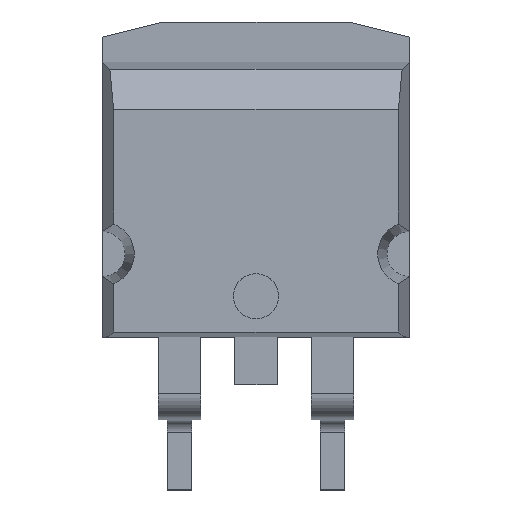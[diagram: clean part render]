
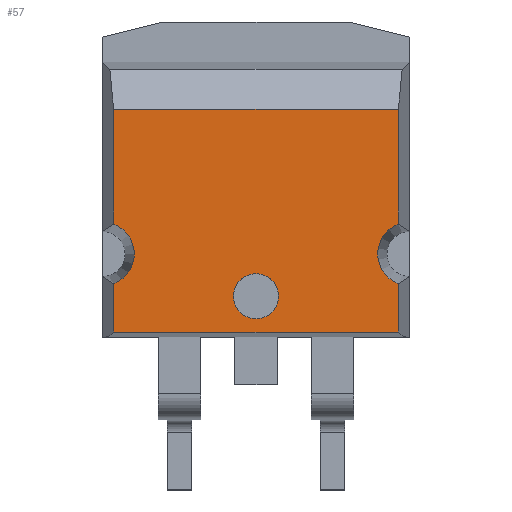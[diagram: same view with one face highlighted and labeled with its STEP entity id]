
A CAD part, top view. The second image highlights one B-rep face of the part: STEP entity #57.
In plain terms, the highlighted planar face has unit normal (0, 0, 1).
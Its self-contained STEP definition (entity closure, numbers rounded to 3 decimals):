
#57 = ADVANCED_FACE ( 'NONE', ( #1667, #1072 ), #1610, .T. ) ;
#59 = CARTESIAN_POINT ( 'NONE',  ( -4.732, 4.808, 4.8 ) ) ;
#135 = EDGE_LOOP ( 'NONE', ( #3722, #2105 ) ) ;
#146 = VECTOR ( 'NONE', #3382, 1000. ) ;
#148 = ORIENTED_EDGE ( 'NONE', *, *, #196, .T. ) ;
#149 = CARTESIAN_POINT ( 'NONE',  ( 0., -1.408, 4.8 ) ) ;
#196 = EDGE_CURVE ( 'NONE', #2182, #2054, #1159, .T. ) ;
#212 = AXIS2_PLACEMENT_3D ( 'NONE', #3605, #950, #2122 ) ;
#222 = VECTOR ( 'NONE', #2883, 1000. ) ;
#271 = CARTESIAN_POINT ( 'NONE',  ( 0., 4.808, 4.8 ) ) ;
#273 = EDGE_CURVE ( 'NONE', #660, #3247, #2466, .T. ) ;
#293 = CARTESIAN_POINT ( 'NONE',  ( 4.732, -0.485, 4.8 ) ) ;
#339 = CARTESIAN_POINT ( 'NONE',  ( -4.732, 4.09, 4.8 ) ) ;
#340 = CARTESIAN_POINT ( 'NONE',  ( 5.1, 0., 4.8 ) ) ;
#400 = CARTESIAN_POINT ( 'NONE',  ( -4.732, 1.802, 4.8 ) ) ;
#405 = CIRCLE ( 'NONE', #1536, 1.057 ) ;
#436 = DIRECTION ( 'NONE',  ( 0., 0., 1. ) ) ;
#521 = CARTESIAN_POINT ( 'NONE',  ( -4.732, -0.99, 4.8 ) ) ;
#660 = VERTEX_POINT ( 'NONE', #3761 ) ;
#765 = VECTOR ( 'NONE', #2147, 1000. ) ;
#782 = CIRCLE ( 'NONE', #1776, 0.75 ) ;
#807 = DIRECTION ( 'NONE',  ( 0., 0., -1. ) ) ;
#835 = AXIS2_PLACEMENT_3D ( 'NONE', #340, #1868, #2431 ) ;
#869 = DIRECTION ( 'NONE',  ( 0., 1., 0. ) ) ;
#950 = DIRECTION ( 'NONE',  ( 0., 0., -1. ) ) ;
#951 = CARTESIAN_POINT ( 'NONE',  ( -0.75, -1.408, 4.8 ) ) ;
#1017 = EDGE_CURVE ( 'NONE', #660, #3716, #3597, .T. ) ;
#1047 = EDGE_CURVE ( 'NONE', #1847, #2182, #3682, .T. ) ;
#1072 = FACE_OUTER_BOUND ( 'NONE', #1634, .T. ) ;
#1078 = VERTEX_POINT ( 'NONE', #59 ) ;
#1144 = ORIENTED_EDGE ( 'NONE', *, *, #1047, .T. ) ;
#1159 = LINE ( 'NONE', #2332, #1561 ) ;
#1163 = LINE ( 'NONE', #271, #222 ) ;
#1231 = CIRCLE ( 'NONE', #3281, 1.057 ) ;
#1251 = DIRECTION ( 'NONE',  ( 1., 0., 0. ) ) ;
#1314 = ORIENTED_EDGE ( 'NONE', *, *, #1905, .T. ) ;
#1393 = CARTESIAN_POINT ( 'NONE',  ( 4.732, -2.595, 4.8 ) ) ;
#1439 = EDGE_CURVE ( 'NONE', #3789, #3467, #782, .T. ) ;
#1449 = CARTESIAN_POINT ( 'NONE',  ( 4.732, 4.808, 4.8 ) ) ;
#1519 = CARTESIAN_POINT ( 'NONE',  ( -4.732, 0.99, 4.8 ) ) ;
#1536 = AXIS2_PLACEMENT_3D ( 'NONE', #3763, #1881, #2797 ) ;
#1561 = VECTOR ( 'NONE', #869, 1000. ) ;
#1599 = ORIENTED_EDGE ( 'NONE', *, *, #1017, .T. ) ;
#1608 = EDGE_CURVE ( 'NONE', #3467, #3789, #3385, .T. ) ;
#1610 = PLANE ( 'NONE',  #2867 ) ;
#1634 = EDGE_LOOP ( 'NONE', ( #1599, #2303, #1144, #148, #3778, #1314, #2231, #1740, #2108 ) ) ;
#1667 = FACE_BOUND ( 'NONE', #135, .T. ) ;
#1669 = CARTESIAN_POINT ( 'NONE',  ( 4.732, -0.99, 4.8 ) ) ;
#1702 = EDGE_CURVE ( 'NONE', #1847, #3716, #3520, .T. ) ;
#1740 = ORIENTED_EDGE ( 'NONE', *, *, #2254, .T. ) ;
#1776 = AXIS2_PLACEMENT_3D ( 'NONE', #149, #2795, #2870 ) ;
#1847 = VERTEX_POINT ( 'NONE', #1669 ) ;
#1868 = DIRECTION ( 'NONE',  ( 0., 0., -1. ) ) ;
#1881 = DIRECTION ( 'NONE',  ( 0., 0., -1. ) ) ;
#1892 = LINE ( 'NONE', #400, #146 ) ;
#1905 = EDGE_CURVE ( 'NONE', #1078, #2458, #1892, .T. ) ;
#1933 = EDGE_CURVE ( 'NONE', #2458, #2704, #1231, .T. ) ;
#1976 = EDGE_CURVE ( 'NONE', #2054, #1078, #1163, .T. ) ;
#2054 = VERTEX_POINT ( 'NONE', #1449 ) ;
#2062 = CARTESIAN_POINT ( 'NONE',  ( -5.1, 0., 4.8 ) ) ;
#2105 = ORIENTED_EDGE ( 'NONE', *, *, #1439, .T. ) ;
#2108 = ORIENTED_EDGE ( 'NONE', *, *, #273, .F. ) ;
#2122 = DIRECTION ( 'NONE',  ( -1., 0., 0. ) ) ;
#2147 = DIRECTION ( 'NONE',  ( 0., 1., 0. ) ) ;
#2178 = CARTESIAN_POINT ( 'NONE',  ( 0., -2.595, 4.8 ) ) ;
#2182 = VERTEX_POINT ( 'NONE', #3596 ) ;
#2231 = ORIENTED_EDGE ( 'NONE', *, *, #1933, .T. ) ;
#2254 = EDGE_CURVE ( 'NONE', #2704, #3247, #405, .T. ) ;
#2303 = ORIENTED_EDGE ( 'NONE', *, *, #1702, .F. ) ;
#2332 = CARTESIAN_POINT ( 'NONE',  ( 4.732, 1.802, 4.8 ) ) ;
#2431 = DIRECTION ( 'NONE',  ( 1., 0., 0. ) ) ;
#2458 = VERTEX_POINT ( 'NONE', #1519 ) ;
#2466 = LINE ( 'NONE', #339, #765 ) ;
#2704 = VERTEX_POINT ( 'NONE', #2836 ) ;
#2761 = VECTOR ( 'NONE', #1251, 1000. ) ;
#2795 = DIRECTION ( 'NONE',  ( 0., 0., -1. ) ) ;
#2797 = DIRECTION ( 'NONE',  ( 1., 0., 0. ) ) ;
#2802 = DIRECTION ( 'NONE',  ( 1., 0., 0. ) ) ;
#2836 = CARTESIAN_POINT ( 'NONE',  ( -4.043, 0., 4.8 ) ) ;
#2867 = AXIS2_PLACEMENT_3D ( 'NONE', #3755, #436, #2802 ) ;
#2870 = DIRECTION ( 'NONE',  ( -1., 0., 0. ) ) ;
#2883 = DIRECTION ( 'NONE',  ( -1., 0., 0. ) ) ;
#2889 = CARTESIAN_POINT ( 'NONE',  ( 0.75, -1.408, 4.8 ) ) ;
#3214 = VECTOR ( 'NONE', #3295, 1000. ) ;
#3247 = VERTEX_POINT ( 'NONE', #521 ) ;
#3281 = AXIS2_PLACEMENT_3D ( 'NONE', #2062, #807, #3503 ) ;
#3295 = DIRECTION ( 'NONE',  ( 0., -1., 0. ) ) ;
#3382 = DIRECTION ( 'NONE',  ( 0., -1., 0. ) ) ;
#3385 = CIRCLE ( 'NONE', #212, 0.75 ) ;
#3467 = VERTEX_POINT ( 'NONE', #951 ) ;
#3503 = DIRECTION ( 'NONE',  ( 1., 0., 0. ) ) ;
#3520 = LINE ( 'NONE', #293, #3214 ) ;
#3596 = CARTESIAN_POINT ( 'NONE',  ( 4.732, 0.99, 4.8 ) ) ;
#3597 = LINE ( 'NONE', #2178, #2761 ) ;
#3605 = CARTESIAN_POINT ( 'NONE',  ( 0., -1.408, 4.8 ) ) ;
#3682 = CIRCLE ( 'NONE', #835, 1.057 ) ;
#3716 = VERTEX_POINT ( 'NONE', #1393 ) ;
#3722 = ORIENTED_EDGE ( 'NONE', *, *, #1608, .T. ) ;
#3755 = CARTESIAN_POINT ( 'NONE',  ( 0., 1.802, 4.8 ) ) ;
#3761 = CARTESIAN_POINT ( 'NONE',  ( -4.732, -2.595, 4.8 ) ) ;
#3763 = CARTESIAN_POINT ( 'NONE',  ( -5.1, 0., 4.8 ) ) ;
#3778 = ORIENTED_EDGE ( 'NONE', *, *, #1976, .T. ) ;
#3789 = VERTEX_POINT ( 'NONE', #2889 ) ;
